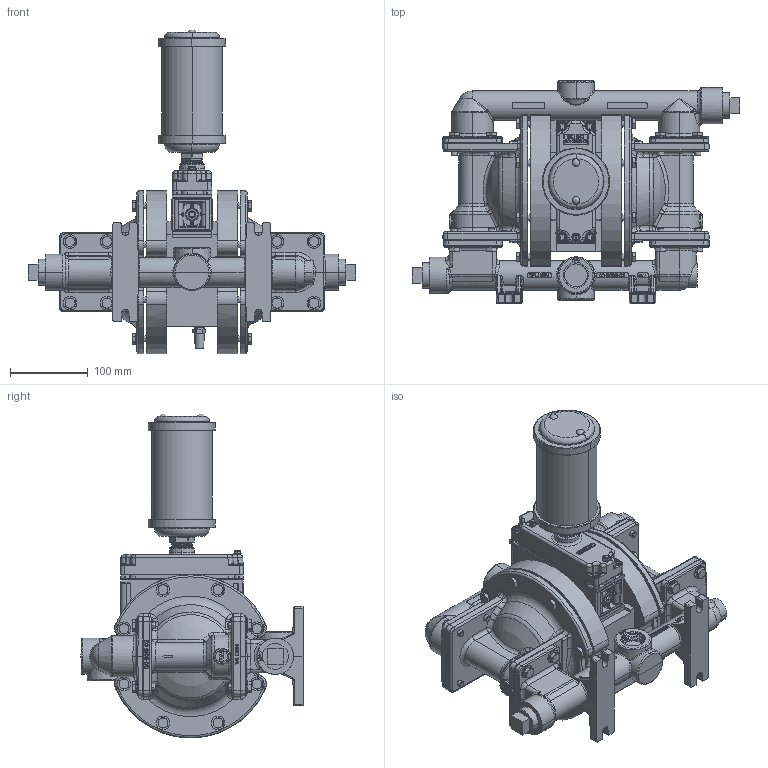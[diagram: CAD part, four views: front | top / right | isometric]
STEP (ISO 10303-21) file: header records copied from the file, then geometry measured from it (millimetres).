
FILE_DESCRIPTION((''),'2;1');
FILE_NAME('PS220_SS_CP_TOP_V1','2023-12-07T12:47:48',('11010273'),(''),'CREO PARAMETRIC BY PTC INC, 2022124','CREO PARAMETRIC BY PTC INC, 2022124','');
FILE_SCHEMA(('CONFIG_CONTROL_DESIGN'));
Length unit declared in the file: inch
Products named in the file (1): PS220_SS_CP_TOP_V1
Bounding box: 421.64 x 285.75 x 416.86 mm (x, y, z)
Volume: 8077599.3 mm3; surface area: 642644.5 mm2
Topology: 1 solids, 3 shells, 6058 faces, 16146 edges, 10304 vertices
Faces by surface type: plane 4085, cylinder 865, bspline 422, cone 354, torus 236, sphere 92, extrusion 4
Entity records: 232630 total; most frequent: CARTESIAN_POINT 85699, ORIENTED_EDGE 32118, DIRECTION 28034, EDGE_CURVE 16059, VECTOR 11528, LINE 11524, VERTEX_POINT 10304, AXIS2_PLACEMENT_3D 8253
